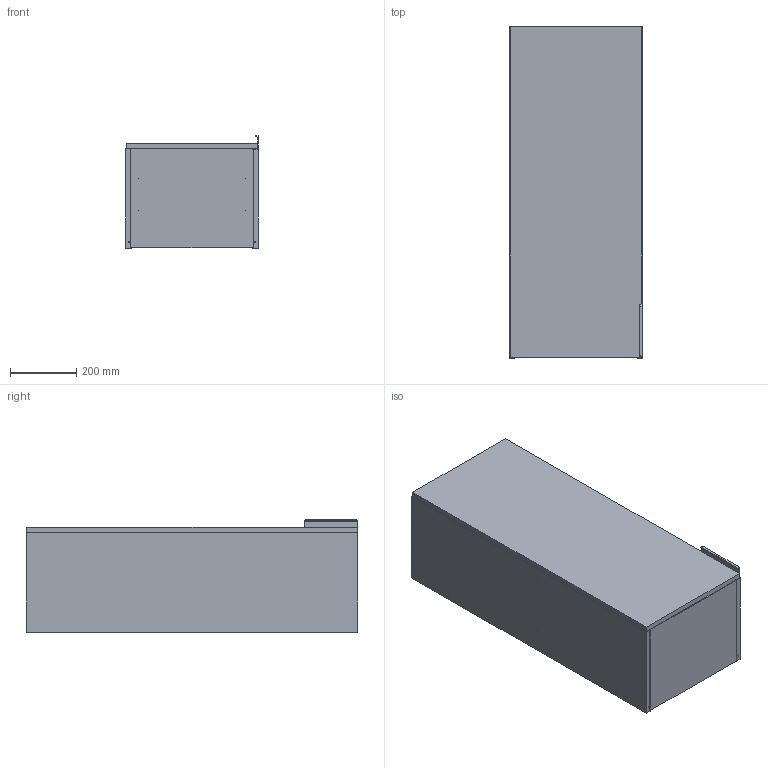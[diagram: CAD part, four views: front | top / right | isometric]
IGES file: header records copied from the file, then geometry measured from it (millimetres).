
Start section: SolidWorks IGES file using analytic representation for surfaces
Global section: file name: \\PDM-SQL\Technolodzy\WYROBY\_Nowa dokumentacja\S｣UPEK VIGOUR 40 1D - 167982, 167983, 167984\S｣UPEK VIGOUR 100 CM.IGS; native system: SolidWorks 2012; preprocessor: SolidWorks 2012; author: rkopecki; date: 200625.131641; units: millimetre
Bounding box: 400 x 1000 x 338.55 mm (x, y, z)
Surface area: 4193130.8 mm2 (no closed solid volume)
Topology: 0 solids, 0 shells, 1193 faces, 19472 edges, 19472 vertices
Faces by surface type: bspline 663, revolution 530
